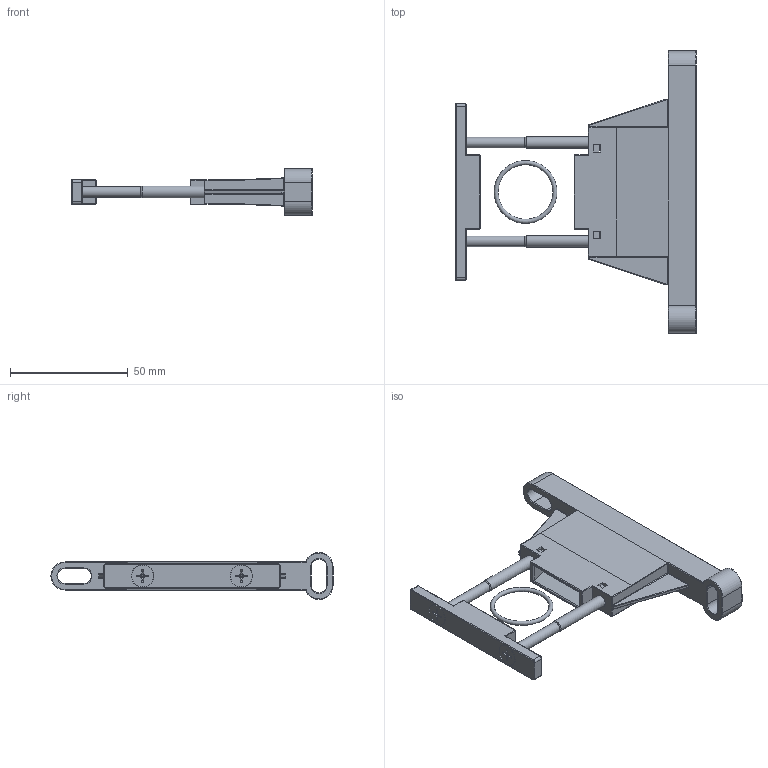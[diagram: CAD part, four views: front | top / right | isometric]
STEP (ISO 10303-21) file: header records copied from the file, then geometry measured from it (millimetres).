
FILE_DESCRIPTION((''),'2;1');
FILE_NAME('K:\ZEICHNG\webgrafik.intern\Air-Techniques Befestigungen und Behälter\step\KKOP.2W.stp','2013-06-21T08:15:25',('RJanz'),(''),'Autodesk Inventor 2013','Autodesk Inventor 2013','');
FILE_SCHEMA(('CONFIG_CONTROL_DESIGN'));
Length unit declared in the file: millimetre
Products named in the file (1): Bauteil1
Bounding box: 102.5 x 120 x 19.96 mm (x, y, z)
Volume: 27618.9 mm3; surface area: 24918.9 mm2
Topology: 3 solids, 3 shells, 1234 faces, 3177 edges, 1992 vertices
Faces by surface type: plane 462, bspline 393, cylinder 243, torus 71, sphere 39, cone 26
Full cylindrical faces by diameter (mm): 0.2 x3, 0.25 x3, 4 x1, 4.509 x2, 5 x5, 5.2 x6, 9.3 x2, 9.6 x2
Entity records: 41361 total; most frequent: CARTESIAN_POINT 12900, ORIENTED_EDGE 6184, DIRECTION 4540, EDGE_CURVE 3092, VERTEX_POINT 1984, VECTOR 1652, LINE 1652, AXIS2_PLACEMENT_3D 1444
